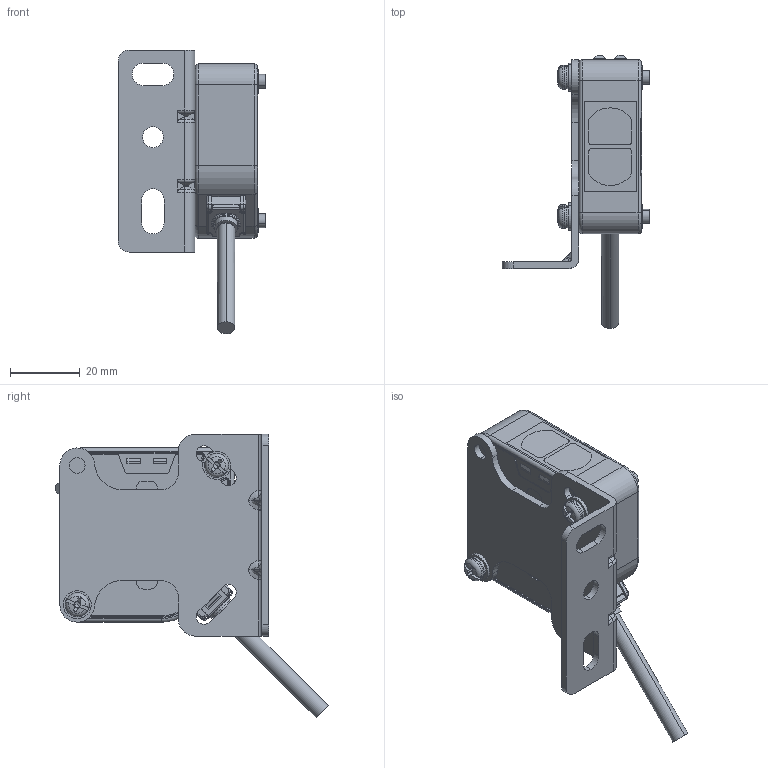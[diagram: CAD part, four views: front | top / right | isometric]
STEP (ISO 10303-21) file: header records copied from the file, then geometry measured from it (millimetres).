
FILE_DESCRIPTION (( 'STEP AP214' ), '1' );
FILE_NAME ('BEN300-DDT_BEN300-DFR.STEP', '2019-07-01T06:54:00', ( '10118109' ), ( '' ), 'SwSTEP 2.0', 'SolidWorks 2018', '' );
FILE_SCHEMA (( 'AUTOMOTIVE_DESIGN' ));
Length unit declared in the file: millimetre
Products named in the file (1): BEN300-DDT_BEN300-DFR
Bounding box: 42.4 x 78.27 x 81.5 mm (x, y, z)
Volume: 50090.8 mm3; surface area: 19838.8 mm2
Topology: 6 solids, 6 shells, 1347 faces, 3588 edges, 2338 vertices
Faces by surface type: plane 689, cylinder 298, bspline 180, torus 116, cone 56, sphere 8
Entity records: 58132 total; most frequent: CARTESIAN_POINT 16962, ORIENTED_EDGE 7160, DIRECTION 6316, EDGE_CURVE 3580, VERTEX_POINT 2338, AXIS2_PLACEMENT_3D 2108, LINE 2100, VECTOR 2100
